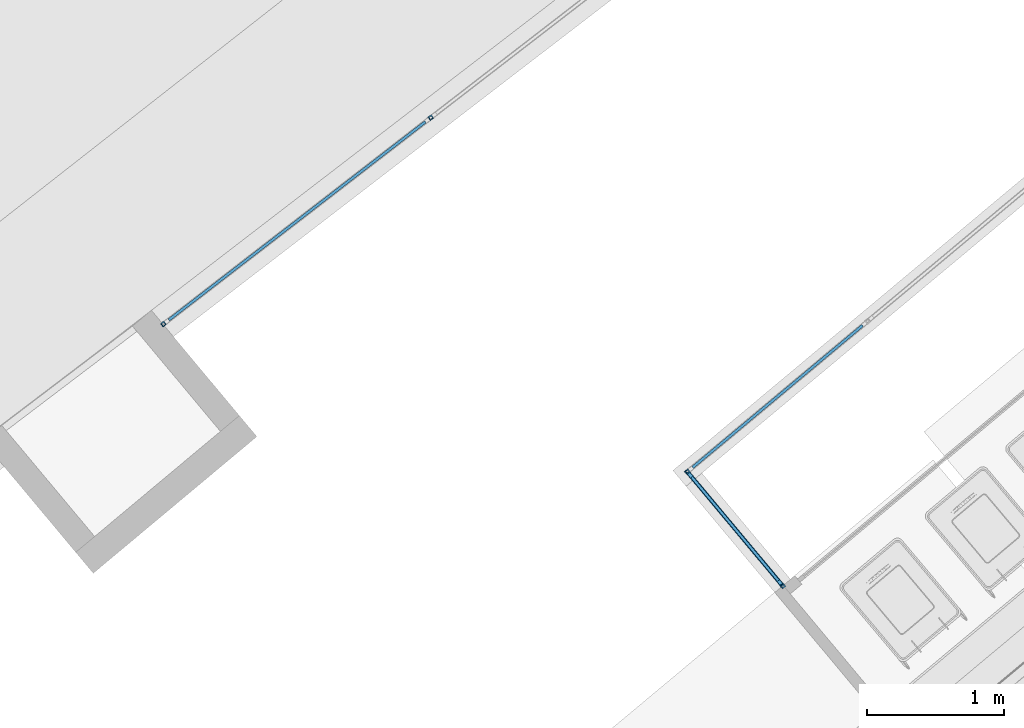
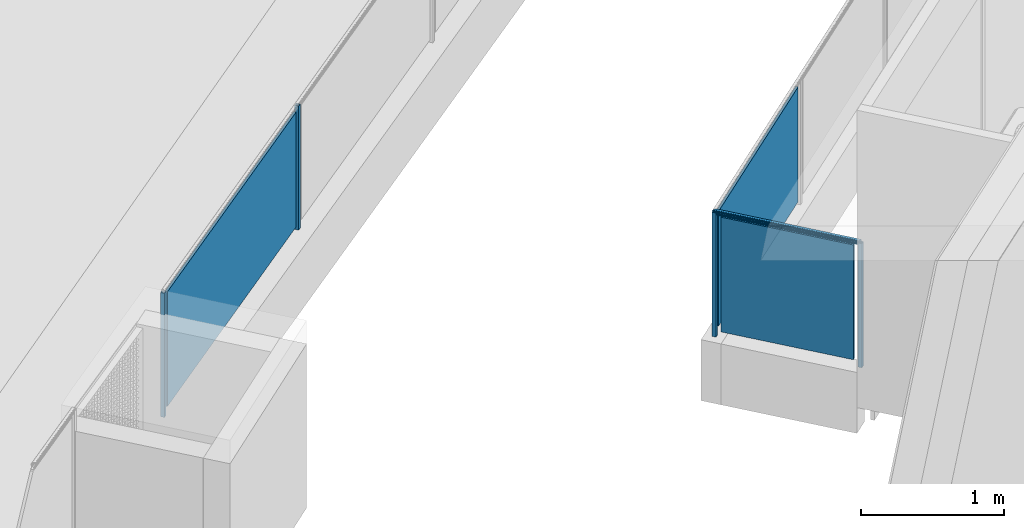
# One storey, part 29 of 75: 8 building element parts, 1 element without a shape of its own.
"""IFC4 building model written with IfcOpenShell, lengths in metres."""

from ifc_helpers import new_model, entity, si_unit, converted_unit, derived_unit, direction, frame, origin_with_axes, place, context, subcontext, project, spatial, polygons, material, type_object, element, aggregate, save


model = new_model("IFC4")

# Units and contexts
model_context = context("Model", 3, precision=1e-05, world=origin_with_axes(), true_north=direction((0.0, 1.0)))
body_context = subcontext(model_context, "Body", "Model", "MODEL_VIEW")
ifc_project = project(units=[si_unit("LENGTHUNIT", "METRE"), si_unit("AREAUNIT", "SQUARE_METRE"), si_unit("VOLUMEUNIT", "CUBIC_METRE"), converted_unit("PLANEANGLEUNIT", "DEGREE", entity("IfcPlaneAngleMeasure", 0.0174532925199), si_unit("PLANEANGLEUNIT", "RADIAN"), dimensions=[0, 0, 0, 0, 0, 0, 0]), converted_unit("TIMEUNIT", "Year", entity("IfcTimeMeasure", 31556926.0), si_unit("TIMEUNIT", "SECOND"), dimensions=[0, 0, 1, 0, 0, 0, 0]), si_unit("MASSUNIT", "GRAM", prefix="KILO"), si_unit("THERMODYNAMICTEMPERATUREUNIT", "DEGREE_CELSIUS"), si_unit("LUMINOUSINTENSITYUNIT", "LUMEN"), si_unit("ENERGYUNIT", "JOULE", prefix="MEGA"), derived_unit("THERMALCONDUCTANCEUNIT", [(si_unit("POWERUNIT", "WATT"), 1), (si_unit("LENGTHUNIT", "METRE"), -1), (si_unit("THERMODYNAMICTEMPERATUREUNIT", "KELVIN"), -1)]), derived_unit("SPECIFICHEATCAPACITYUNIT", [(si_unit("ENERGYUNIT", "JOULE"), 1), (si_unit("MASSUNIT", "GRAM", prefix="KILO"), -1), (si_unit("THERMODYNAMICTEMPERATUREUNIT", "KELVIN"), -1)]), derived_unit("MASSDENSITYUNIT", [(si_unit("MASSUNIT", "GRAM", prefix="KILO"), 1), (si_unit("VOLUMEUNIT", "CUBIC_METRE"), -1)])], contexts=[model_context])

# Site, building, storey
site_placement = place(None, frame((-0.00153261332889, -0.00661245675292, 0.0), z_axis=(0.0, 0.0, 1.0), x_axis=(1.0, 0.0, 0.0)))
site = spatial("IfcSite", under=ifc_project, at=site_placement, Name="Gelände", CompositionType="ELEMENT")
building_placement = place(site_placement, origin_with_axes())
building = spatial("IfcBuilding", under=site, at=building_placement, Name="Gebäude", CompositionType="ELEMENT")
storey_placement = place(building_placement, frame((0.0, 0.0, -0.22), z_axis=(0.0, 0.0, 1.0), x_axis=(1.0, 0.0, 0.0)))
storey = spatial("IfcBuildingStorey", under=building, at=storey_placement, Name="EG", CompositionType="ELEMENT", Elevation=-0.22)

# Railing, building element parts
railing_type = type_object("IfcRailingType", Name="Geländerart", PredefinedType="NOTDEFINED")
railing_placement = place(storey_placement, frame((-6.36726458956, 22.4448248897, 0.523948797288), z_axis=(0.0, 0.0, 1.0), x_axis=(1.0, 0.0, 0.0)))
railing = element("IfcRailing", 1, at=railing_placement, inside=storey, type_object=railing_type, Name="Geländer - 001", PredefinedType="NOTDEFINED")
ifc_material_1 = material(Name="Aluminium")
building_element_part_1_placement = place(railing_placement, origin_with_axes())
building_element_part_1 = element("IfcBuildingElementPart", 2, at=building_element_part_1_placement, material=ifc_material_1, Name="Aluminium", PredefinedType="NOTDEFINED", context=body_context, shape_type="Tessellation", body=[
    polygons([(0.059444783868, 0.0692193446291, 0.0), (0.0364238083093, 0.0499830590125, 0.0), (0.0364238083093, 0.0499830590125, 1.06), (0.059444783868, 0.0692193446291, 1.06), (0.0786810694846, 0.0461983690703, 0.0), (0.0556600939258, 0.0269620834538, 0.0), (0.058814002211, 0.0621764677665, 0.0), (0.0434666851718, 0.0493522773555, 0.0), (0.0562908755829, 0.0340049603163, 0.0), (0.0716381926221, 0.0468291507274, 0.0), (0.0556600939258, 0.0269620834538, 1.06), (0.0786810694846, 0.0461983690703, 1.06), (0.058814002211, 0.0621764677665, 1.06), (0.0716381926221, 0.0468291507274, 1.06), (0.0562908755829, 0.0340049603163, 1.06), (0.0434666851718, 0.0493522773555, 1.06)], [[[1, 2, 3, 4]], [[1, 5, 6, 2], [7, 8, 9, 10]], [[2, 6, 11, 3]], [[4, 3, 11, 12], [13, 14, 15, 16]], [[5, 1, 4, 12]], [[6, 5, 12, 11]], [[8, 7, 13, 16]], [[9, 8, 16, 15]], [[10, 9, 15, 14]], [[7, 10, 14, 13]]], closed=True),
])
building_element_part_2_placement = place(railing_placement, origin_with_axes())
building_element_part_2 = element("IfcBuildingElementPart", 3, at=building_element_part_2_placement, material=ifc_material_1, Name="Aluminium", PredefinedType="NOTDEFINED", context=body_context, shape_type="Tessellation", body=[
    polygons([(-0.637623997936, 0.903434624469, 0.0), (-0.660644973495, 0.884198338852, 0.0), (-0.660644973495, 0.884198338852, 1.06), (-0.637623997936, 0.903434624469, 1.06), (-0.61838771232, 0.88041364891, 0.0), (-0.641408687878, 0.861177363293, 0.0), (-0.638254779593, 0.896391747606, 0.0), (-0.653602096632, 0.883567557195, 0.0), (-0.640777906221, 0.868220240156, 0.0), (-0.625430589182, 0.881044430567, 0.0), (-0.641408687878, 0.861177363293, 1.06), (-0.61838771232, 0.88041364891, 1.06), (-0.638254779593, 0.896391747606, 1.06), (-0.625430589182, 0.881044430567, 1.06), (-0.640777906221, 0.868220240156, 1.06), (-0.653602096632, 0.883567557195, 1.06)], [[[1, 2, 3, 4]], [[1, 5, 6, 2], [7, 8, 9, 10]], [[2, 6, 11, 3]], [[4, 3, 11, 12], [13, 14, 15, 16]], [[5, 1, 4, 12]], [[6, 5, 12, 11]], [[8, 7, 13, 16]], [[9, 8, 16, 15]], [[10, 9, 15, 14]], [[7, 10, 14, 13]]], closed=True),
])
building_element_part_3_placement = place(railing_placement, origin_with_axes())
building_element_part_3 = element("IfcBuildingElementPart", 4, at=building_element_part_3_placement, material=ifc_material_1, Name="Aluminium", PredefinedType="NOTDEFINED", context=body_context, shape_type="Tessellation", body=[
    polygons([(-4.49120678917, 1.96508217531, 0.0), (-4.47287339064, 1.94133588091, 0.0), (-4.47287339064, 1.94133588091, 1.06), (-4.49120678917, 1.96508217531, 1.06), (-4.46746049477, 1.98341557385, 0.0), (-4.44912709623, 1.95966927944, 0.0), (-4.48419350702, 1.964180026, 0.0), (-4.47197124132, 1.94834916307, 0.0), (-4.45614037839, 1.96057142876, 0.0), (-4.46836264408, 1.97640229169, 0.0), (-4.44912709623, 1.95966927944, 1.06), (-4.46746049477, 1.98341557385, 1.06), (-4.48419350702, 1.964180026, 1.06), (-4.46836264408, 1.97640229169, 1.06), (-4.45614037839, 1.96057142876, 1.06), (-4.47197124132, 1.94834916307, 1.06)], [[[1, 2, 3, 4]], [[1, 5, 6, 2], [7, 8, 9, 10]], [[2, 6, 11, 3]], [[4, 3, 11, 12], [13, 14, 15, 16]], [[5, 1, 4, 12]], [[6, 5, 12, 11]], [[8, 7, 13, 16]], [[9, 8, 16, 15]], [[10, 9, 15, 14]], [[7, 10, 14, 13]]], closed=True),
])
building_element_part_4_placement = place(railing_placement, origin_with_axes())
building_element_part_4 = element("IfcBuildingElementPart", 5, at=building_element_part_4_placement, material=ifc_material_1, Name="Aluminium", PredefinedType="NOTDEFINED", context=body_context, shape_type="Tessellation", body=[
    polygons([(0.0653297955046, 0.0545894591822, 1.07636363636), (0.065510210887, 0.0547402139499, 1.07634109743), (-0.624907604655, 0.880995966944, 1.07634109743), (-0.62523880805, 0.881025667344, 1.07636363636), (0.0653297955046, 0.0545894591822, 1.07818181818), (0.0652823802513, 0.0545498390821, 1.07820551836), (0.0627521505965, 0.0524355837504, 1.0792391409), (0.0601853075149, 0.0502907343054, 1.07983921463), (0.0576013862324, 0.0481316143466, 1.08000117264), (0.0575524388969, 0.0480907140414, 1.08), (0.0575034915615, 0.0480498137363, 1.08000117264), (0.0549195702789, 0.0458906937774, 1.07983921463), (0.0523527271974, 0.0437458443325, 1.0792391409), (0.0498224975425, 0.0416315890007, 1.07820551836), (0.0497750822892, 0.0415919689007, 1.07818181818), (0.0497750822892, 0.0415919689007, 1.07636363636), (0.0495946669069, 0.0414412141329, 1.07634109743), (0.0489265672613, 0.0408829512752, 1.0761115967), (0.0482890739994, 0.0403502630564, 1.07565956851), (0.0477015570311, 0.0398593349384, 1.07499874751), (0.0471818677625, 0.0394250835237, 1.0741492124), (0.0467457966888, 0.0390607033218, 1.07313677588), (0.0464065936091, 0.0387772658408, 1.07199220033), (0.0461745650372, 0.038583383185, 1.07075026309), (0.0460567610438, 0.0384849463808, 1.06944869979), (0.0460567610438, 0.0384849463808, 1.06812705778), (0.0461745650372, 0.038583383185, 1.06682549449), (0.0464065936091, 0.0387772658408, 1.06558355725), (0.0467457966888, 0.0390607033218, 1.06443898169), (0.0471818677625, 0.0394250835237, 1.06342654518), (0.0477015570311, 0.0398593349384, 1.06257701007), (0.0482890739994, 0.0403502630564, 1.06191618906), (0.0489265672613, 0.0408829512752, 1.06146416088), (0.0495946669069, 0.0414412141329, 1.06123466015), (0.0497750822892, 0.0415919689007, 1.06121212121), (0.0497750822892, 0.0415919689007, 1.05818181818), (0.0498970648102, 0.041693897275, 1.05810011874), (0.0504653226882, 0.0421687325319, 1.05758389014), (0.050978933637, 0.0425979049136, 1.05688326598), (0.051422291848, 0.0429683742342, 1.05601953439), (0.0517819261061, 0.043268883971, 1.05501893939), (0.0520469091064, 0.0434903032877, 1.05391188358), (0.0522091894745, 0.0436259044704, 1.05273200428), (0.0522638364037, 0.0436715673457, 1.05151515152), (0.0522091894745, 0.0436259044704, 1.05029829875), (0.0520469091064, 0.0434903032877, 1.04911841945), (0.0517819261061, 0.043268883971, 1.04801136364), (0.051422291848, 0.0429683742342, 1.04701076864), (0.050978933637, 0.0425979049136, 1.04614703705), (0.0504653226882, 0.0421687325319, 1.04544641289), (0.0498970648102, 0.041693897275, 1.04493018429), (0.0497750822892, 0.0415919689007, 1.04484848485), (0.0497750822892, 0.0415919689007, 1.04), (0.0653297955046, 0.0545894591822, 1.04), (0.0653297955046, 0.0545894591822, 1.04484848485), (0.0652078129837, 0.0544875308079, 1.04493018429), (0.0646395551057, 0.0540126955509, 1.04544641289), (0.0641259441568, 0.0535835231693, 1.04614703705), (0.0636825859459, 0.0532130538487, 1.04701076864), (0.0633229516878, 0.0529125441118, 1.04801136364), (0.0630579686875, 0.0526911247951, 1.04911841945), (0.0628956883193, 0.0525555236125, 1.05029829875), (0.0628410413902, 0.0525098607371, 1.05151515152), (0.0628956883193, 0.0525555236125, 1.05273200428), (0.0630579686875, 0.0526911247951, 1.05391188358), (0.0633229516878, 0.0529125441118, 1.05501893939), (0.0636825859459, 0.0532130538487, 1.05601953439), (0.0641259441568, 0.0535835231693, 1.05688326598), (0.0646395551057, 0.0540126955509, 1.05758389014), (0.0652078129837, 0.0544875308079, 1.05810011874), (0.0653297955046, 0.0545894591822, 1.05818181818), (0.0653297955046, 0.0545894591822, 1.06121212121), (0.065510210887, 0.0547402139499, 1.06123466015), (0.0661783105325, 0.0552984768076, 1.06146416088), (0.0668158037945, 0.0558311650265, 1.06191618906), (0.0674033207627, 0.0563220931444, 1.06257701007), (0.0679230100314, 0.0567563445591, 1.06342654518), (0.0683590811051, 0.057120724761, 1.06443898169), (0.0686982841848, 0.0574041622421, 1.06558355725), (0.0689303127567, 0.0575980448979, 1.06682549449), (0.06904811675, 0.057696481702, 1.06812705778), (0.06904811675, 0.057696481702, 1.06944869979), (0.0689303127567, 0.0575980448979, 1.07075026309), (0.0686982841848, 0.0574041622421, 1.07199220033), (0.0683590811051, 0.057120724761, 1.07313677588), (0.0679230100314, 0.0567563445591, 1.0741492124), (0.0674033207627, 0.0563220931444, 1.07499874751), (0.0668158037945, 0.0558311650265, 1.07565956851), (0.0661783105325, 0.0552984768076, 1.0761115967), (-0.623681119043, 0.880885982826, 1.0761115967), (-0.622510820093, 0.880781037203, 1.07565956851), (-0.621432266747, 0.880684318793, 1.07499874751), (-0.620478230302, 0.880598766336, 1.0741492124), (-0.619677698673, 0.880526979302, 1.07313677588), (-0.619054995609, 0.880471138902, 1.07199220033), (-0.618629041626, 0.880432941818, 1.07075026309), (-0.618412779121, 0.880413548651, 1.06944869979), (-0.618412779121, 0.880413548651, 1.06812705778), (-0.618629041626, 0.880432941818, 1.06682549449), (-0.619054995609, 0.880471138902, 1.06558355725), (-0.619677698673, 0.880526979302, 1.06443898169), (-0.620478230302, 0.880598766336, 1.06342654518), (-0.621432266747, 0.880684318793, 1.06257701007), (-0.622510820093, 0.880781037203, 1.06191618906), (-0.623681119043, 0.880885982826, 1.06146416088), (-0.624907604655, 0.880995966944, 1.06123466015), (-0.62523880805, 0.881025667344, 1.06121212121), (-0.62523880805, 0.881025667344, 1.05818181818), (-0.625462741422, 0.881045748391, 1.05810011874), (-0.626505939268, 0.881139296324, 1.05758389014), (-0.62744881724, 0.881223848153, 1.05688326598), (-0.628262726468, 0.881296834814, 1.05601953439), (-0.628922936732, 0.881356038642, 1.05501893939), (-0.629409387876, 0.88139966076, 1.05391188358), (-0.62970729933, 0.881426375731, 1.05273200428), (-0.629807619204, 0.881435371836, 1.05151515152), (-0.62970729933, 0.881426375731, 1.05029829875), (-0.629409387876, 0.88139966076, 1.04911841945), (-0.628922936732, 0.881356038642, 1.04801136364), (-0.628262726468, 0.881296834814, 1.04701076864), (-0.62744881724, 0.881223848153, 1.04614703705), (-0.626505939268, 0.881139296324, 1.04544641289), (-0.625462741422, 0.881045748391, 1.04493018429), (-0.62523880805, 0.881025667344, 1.04484848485), (-0.62523880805, 0.881025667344, 1.04), (-0.653793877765, 0.883586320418, 1.04), (-0.653793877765, 0.883586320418, 1.04484848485), (-0.653569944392, 0.883566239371, 1.04493018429), (-0.652526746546, 0.883472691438, 1.04544641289), (-0.651583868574, 0.883388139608, 1.04614703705), (-0.650769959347, 0.883315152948, 1.04701076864), (-0.650109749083, 0.88325594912, 1.04801136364), (-0.649623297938, 0.883212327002, 1.04911841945), (-0.649325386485, 0.883185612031, 1.05029829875), (-0.649225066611, 0.883176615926, 1.05151515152), (-0.649325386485, 0.883185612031, 1.05273200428), (-0.649623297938, 0.883212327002, 1.05391188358), (-0.650109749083, 0.88325594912, 1.05501893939), (-0.650769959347, 0.883315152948, 1.05601953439), (-0.651583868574, 0.883388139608, 1.05688326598), (-0.652526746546, 0.883472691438, 1.05758389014), (-0.653569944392, 0.883566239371, 1.05810011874), (-0.653793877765, 0.883586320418, 1.05818181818), (-0.653793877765, 0.883586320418, 1.06121212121), (-0.65412508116, 0.883616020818, 1.06123466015), (-0.655351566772, 0.883726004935, 1.06146416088), (-0.656521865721, 0.883830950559, 1.06191618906), (-0.657600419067, 0.883927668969, 1.06257701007), (-0.658554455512, 0.884013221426, 1.06342654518), (-0.659354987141, 0.88408500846, 1.06443898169), (-0.659977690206, 0.88414084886, 1.06558355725), (-0.660403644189, 0.884179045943, 1.06682549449), (-0.660619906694, 0.884198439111, 1.06812705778), (-0.660619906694, 0.884198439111, 1.06944869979), (-0.660403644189, 0.884179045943, 1.07075026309), (-0.659977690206, 0.88414084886, 1.07199220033), (-0.659354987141, 0.88408500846, 1.07313677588), (-0.658554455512, 0.884013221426, 1.0741492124), (-0.657600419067, 0.883927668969, 1.07499874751), (-0.656521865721, 0.883830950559, 1.07565956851), (-0.655351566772, 0.883726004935, 1.0761115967), (-0.65412508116, 0.883616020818, 1.07634109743), (-0.653793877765, 0.883586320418, 1.07636363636), (-0.653793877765, 0.883586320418, 1.07818181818), (-0.653706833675, 0.883578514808, 1.07820551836), (-0.649061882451, 0.883161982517, 1.0792391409), (-0.64434971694, 0.882739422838, 1.07983921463), (-0.639606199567, 0.882314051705, 1.08000117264), (-0.639516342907, 0.882305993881, 1.08), (-0.639426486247, 0.882297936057, 1.08000117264), (-0.634682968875, 0.881872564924, 1.07983921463), (-0.629970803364, 0.881450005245, 1.0792391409), (-0.62532585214, 0.881033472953, 1.07820551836), (-0.62523880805, 0.881025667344, 1.07818181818)], [[[1, 2, 3, 4]], [[1, 5, 6, 7, 8, 9, 10, 11, 12, 13, 14, 15, 16, 17, 18, 19, 20, 21, 22, 23, 24, 25, 26, 27, 28, 29, 30, 31, 32, 33, 34, 35, 36, 37, 38, 39, 40, 41, 42, 43, 44, 45, 46, 47, 48, 49, 50, 51, 52, 53, 54, 55, 56, 57, 58, 59, 60, 61, 62, 63, 64, 65, 66, 67, 68, 69, 70, 71, 72, 73, 74, 75, 76, 77, 78, 79, 80, 81, 82, 83, 84, 85, 86, 87, 88, 89, 2]], [[2, 89, 90, 3]], [[4, 3, 90, 91, 92, 93, 94, 95, 96, 97, 98, 99, 100, 101, 102, 103, 104, 105, 106, 107, 108, 109, 110, 111, 112, 113, 114, 115, 116, 117, 118, 119, 120, 121, 122, 123, 124, 125, 126, 127, 128, 129, 130, 131, 132, 133, 134, 135, 136, 137, 138, 139, 140, 141, 142, 143, 144, 145, 146, 147, 148, 149, 150, 151, 152, 153, 154, 155, 156, 157, 158, 159, 160, 161, 162, 163, 164, 165, 166, 167, 168, 169, 170, 171, 172, 173, 174]], [[5, 1, 4, 174]], [[6, 5, 174, 173]], [[7, 6, 173, 172]], [[8, 7, 172, 171]], [[9, 8, 171, 170]], [[10, 9, 170, 169]], [[11, 10, 169, 168]], [[12, 11, 168, 167]], [[13, 12, 167, 166]], [[14, 13, 166, 165]], [[15, 14, 165, 164]], [[16, 15, 164, 163]], [[17, 16, 163, 162]], [[18, 17, 162, 161]], [[19, 18, 161, 160]], [[20, 19, 160, 159]], [[21, 20, 159, 158]], [[22, 21, 158, 157]], [[23, 22, 157, 156]], [[24, 23, 156, 155]], [[25, 24, 155, 154]], [[26, 25, 154, 153]], [[27, 26, 153, 152]], [[28, 27, 152, 151]], [[29, 28, 151, 150]], [[30, 29, 150, 149]], [[31, 30, 149, 148]], [[32, 31, 148, 147]], [[33, 32, 147, 146]], [[34, 33, 146, 145]], [[35, 34, 145, 144]], [[36, 35, 144, 143]], [[37, 36, 143, 142]], [[38, 37, 142, 141]], [[39, 38, 141, 140]], [[40, 39, 140, 139]], [[41, 40, 139, 138]], [[42, 41, 138, 137]], [[43, 42, 137, 136]], [[44, 43, 136, 135]], [[45, 44, 135, 134]], [[46, 45, 134, 133]], [[47, 46, 133, 132]], [[48, 47, 132, 131]], [[49, 48, 131, 130]], [[50, 49, 130, 129]], [[51, 50, 129, 128]], [[52, 51, 128, 127]], [[53, 52, 127, 126]], [[54, 53, 126, 125]], [[55, 54, 125, 124]], [[56, 55, 124, 123]], [[57, 56, 123, 122]], [[58, 57, 122, 121]], [[59, 58, 121, 120]], [[60, 59, 120, 119]], [[61, 60, 119, 118]], [[62, 61, 118, 117]], [[63, 62, 117, 116]], [[64, 63, 116, 115]], [[65, 64, 115, 114]], [[66, 65, 114, 113]], [[67, 66, 113, 112]], [[68, 67, 112, 111]], [[69, 68, 111, 110]], [[70, 69, 110, 109]], [[71, 70, 109, 108]], [[72, 71, 108, 107]], [[73, 72, 107, 106]], [[74, 73, 106, 105]], [[75, 74, 105, 104]], [[76, 75, 104, 103]], [[77, 76, 103, 102]], [[78, 77, 102, 101]], [[79, 78, 101, 100]], [[80, 79, 100, 99]], [[81, 80, 99, 98]], [[82, 81, 98, 97]], [[83, 82, 97, 96]], [[84, 83, 96, 95]], [[85, 84, 95, 94]], [[86, 85, 94, 93]], [[87, 86, 93, 92]], [[88, 87, 92, 91]], [[89, 88, 91, 90]]], closed=True),
])
ifc_material_2 = material(Name="Zaun")
building_element_part_5_placement = place(railing_placement, origin_with_axes())
building_element_part_5 = element("IfcBuildingElementPart", 6, at=building_element_part_5_placement, material=ifc_material_2, Name="Zaun", PredefinedType="NOTDEFINED", context=body_context, shape_type="Tessellation", body=[
    polygons([(-0.615129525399, 0.837525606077, 0.05), (0.0178183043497, 0.0800469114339, 0.05), (0.0178183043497, 0.0800469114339, 1.03), (-0.615129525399, 0.837525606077, 1.03), (0.0331656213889, 0.0928711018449, 0.05), (-0.59978220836, 0.850349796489, 0.05), (0.0331656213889, 0.0928711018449, 1.03), (-0.59978220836, 0.850349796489, 1.03)], [[[1, 2, 3, 4]], [[5, 2, 1, 6]], [[7, 3, 2, 5]], [[4, 3, 7, 8]], [[1, 4, 8, 6]], [[7, 5, 6, 8]]], closed=True),
])
building_element_part_6_placement = place(railing_placement, origin_with_axes())
building_element_part_6 = element("IfcBuildingElementPart", 7, at=building_element_part_6_placement, material=ifc_material_2, Name="Zaun", PredefinedType="NOTDEFINED", context=body_context, shape_type="Tessellation", body=[
    polygons([(0.634958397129, 1.95980683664, 0.05), (-0.60755138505, 0.922033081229, 0.05), (-0.60755138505, 0.922033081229, 1.03), (0.634958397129, 1.95980683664, 1.03), (-0.594730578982, 0.906682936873, 0.05), (0.647779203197, 1.94445669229, 0.05), (-0.594730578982, 0.906682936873, 1.03), (0.647779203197, 1.94445669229, 1.03)], [[[1, 2, 3, 4]], [[5, 2, 1, 6]], [[7, 3, 2, 5]], [[4, 3, 7, 8]], [[1, 4, 8, 6]], [[7, 5, 6, 8]]], closed=True),
])
building_element_part_7_placement = place(railing_placement, origin_with_axes())
building_element_part_7 = element("IfcBuildingElementPart", 8, at=building_element_part_7_placement, material=ifc_material_1, Name="Aluminium", PredefinedType="NOTDEFINED", context=body_context, shape_type="Tessellation", body=[
    polygons([(-2.53631936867, 3.47435893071, 0.0), (-2.51798597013, 3.4506126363, 0.0), (-2.51798597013, 3.4506126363, 1.06), (-2.53631936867, 3.47435893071, 1.06), (-2.51257307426, 3.49269232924, 0.0), (-2.49423967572, 3.46894603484, 0.0), (-2.52930608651, 3.47345678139, 0.0), (-2.51708382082, 3.45762591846, 0.0), (-2.50125295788, 3.46984818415, 0.0), (-2.51347522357, 3.48567904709, 0.0), (-2.49423967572, 3.46894603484, 1.06), (-2.51257307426, 3.49269232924, 1.06), (-2.52930608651, 3.47345678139, 1.06), (-2.51347522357, 3.48567904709, 1.06), (-2.50125295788, 3.46984818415, 1.06), (-2.51708382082, 3.45762591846, 1.06)], [[[1, 2, 3, 4]], [[1, 5, 6, 2], [7, 8, 9, 10]], [[2, 6, 11, 3]], [[4, 3, 11, 12], [13, 14, 15, 16]], [[5, 1, 4, 12]], [[6, 5, 12, 11]], [[8, 7, 13, 16]], [[9, 8, 16, 15]], [[10, 9, 15, 14]], [[7, 10, 14, 13]]], closed=True),
])
building_element_part_8_placement = place(railing_placement, origin_with_axes())
building_element_part_8 = element("IfcBuildingElementPart", 9, at=building_element_part_8_placement, material=ifc_material_2, Name="Zaun", PredefinedType="NOTDEFINED", context=body_context, shape_type="Tessellation", body=[
    polygons([(-4.42447865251, 1.98501596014, 0.05), (-2.5487455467, 3.43318138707, 0.05), (-2.5487455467, 3.43318138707, 1.03), (-4.42447865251, 1.98501596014, 1.03), (-2.56096781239, 3.44901225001, 0.05), (-4.4367009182, 2.00084682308, 0.05), (-2.56096781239, 3.44901225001, 1.03), (-4.4367009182, 2.00084682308, 1.03)], [[[1, 2, 3, 4]], [[5, 2, 1, 6]], [[7, 3, 2, 5]], [[4, 3, 7, 8]], [[1, 4, 8, 6]], [[7, 5, 6, 8]]], closed=True),
])
aggregate(railing, [building_element_part_1, building_element_part_2, building_element_part_3, building_element_part_4, building_element_part_5, building_element_part_6, building_element_part_7, building_element_part_8])

save(model, "model.ifc")
